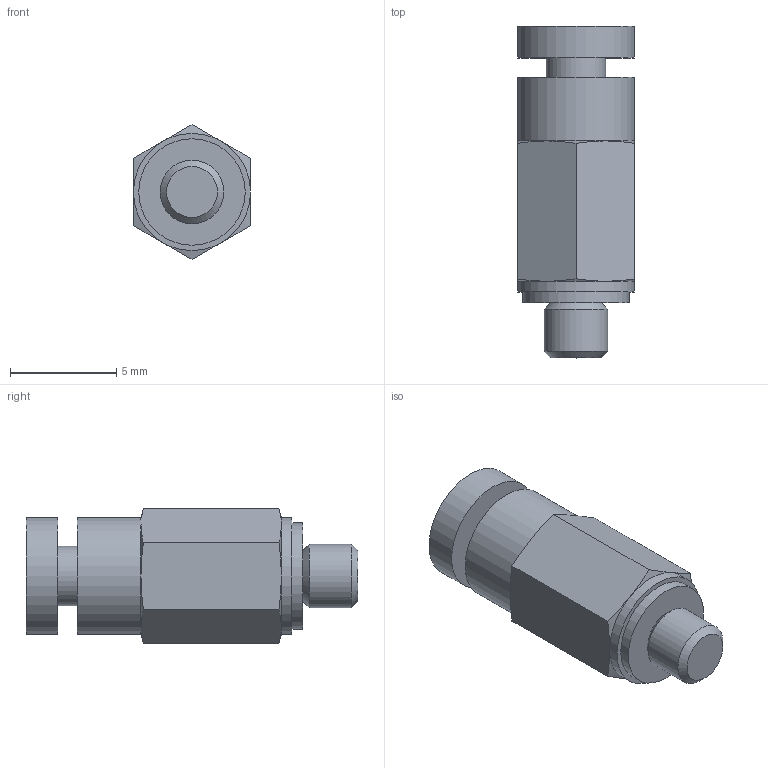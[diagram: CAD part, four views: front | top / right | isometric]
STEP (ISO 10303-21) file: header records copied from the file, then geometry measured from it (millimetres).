
FILE_DESCRIPTION(/* description */ ('STEP AP214'),/* implementation_level */ '2;1');
FILE_NAME(/* name */ 'KQ2H02-M3G',/* time_stamp */ '2023-03-09T07:11:01+01:00',/* author */ ('License CC BY-ND 4.0'),/* organization */ ('CADENAS'),/* preprocessor_version */ 'ST-DEVELOPER v18.102',/* originating_system */ 'PARTsolutions',/* authorisation */ ' ');
FILE_SCHEMA (('AUTOMOTIVE_DESIGN {1 0 10303 214 3 1 1}'));
Length unit declared in the file: millimetre
Products named in the file (1): KQ2H02-M3G
Bounding box: 5.5 x 15.6 x 6.35 mm (x, y, z)
Volume: 287 mm3; surface area: 415 mm2
Topology: 1 solids, 1 shells, 34 faces, 65 edges, 38 vertices
Faces by surface type: cone 14, plane 13, cylinder 7
Full cylindrical faces by diameter (mm): 2 x1, 2.8 x1, 3 x1, 5 x1, 5.5 x3
Entity records: 856 total; most frequent: CARTESIAN_POINT 201, DIRECTION 128, ORIENTED_EDGE 112, AXIS2_PLACEMENT_3D 61, EDGE_CURVE 56, EDGE_LOOP 48, FACE_BOUND 48, VERTEX_POINT 38
